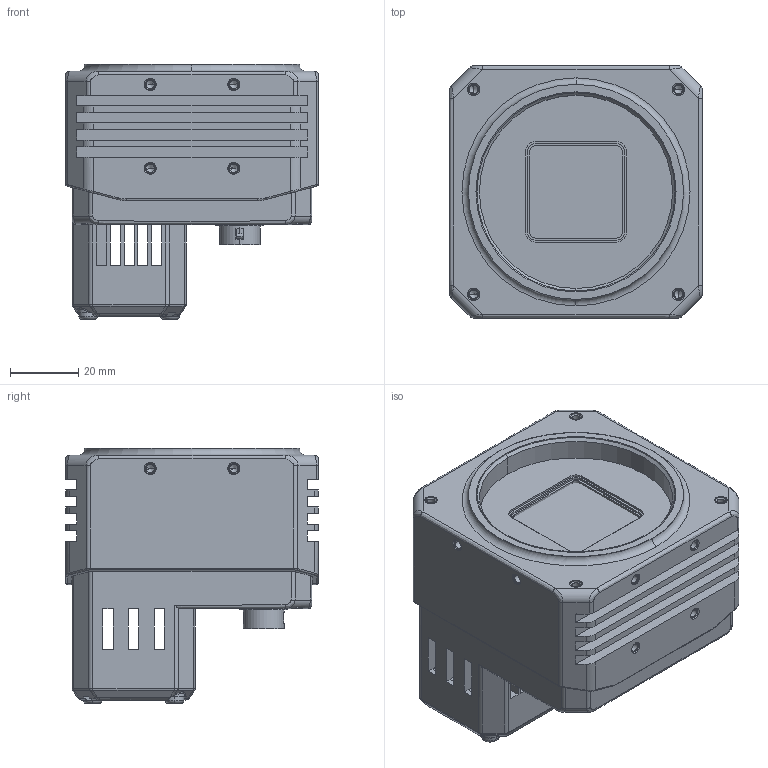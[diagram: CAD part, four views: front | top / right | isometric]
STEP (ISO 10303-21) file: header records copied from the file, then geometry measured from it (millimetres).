
FILE_DESCRIPTION((''),'2;1');
FILE_NAME('2500_M58_0001','2019-08-17T13:36:03',('wangyijun6'),(''),'CREO PARAMETRIC BY PTC INC, 2017260','CREO PARAMETRIC BY PTC INC, 2017260','');
FILE_SCHEMA(('CONFIG_CONTROL_DESIGN'));
Products named in the file (1): 2500_M58_0001
Bounding box: 74 x 74 x 74.68 mm (x, y, z)
Volume: 204163.3 mm3; surface area: 64337.8 mm2
Topology: 4 solids, 60 shells, 2949 faces, 8015 edges, 5167 vertices
Faces by surface type: plane 1616, cylinder 846, bspline 226, cone 131, extrusion 84, torus 40, revolution 4, sphere 2
Entity records: 114628 total; most frequent: CARTESIAN_POINT 41959, ORIENTED_EDGE 15772, DIRECTION 13870, EDGE_CURVE 7959, VERTEX_POINT 5167, VECTOR 5132, LINE 5048, AXIS2_PLACEMENT_3D 4367
